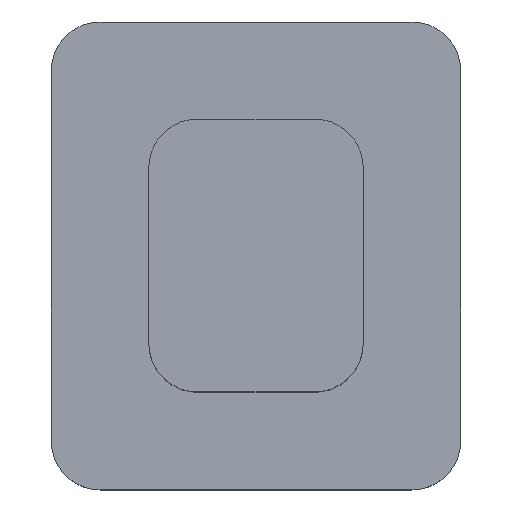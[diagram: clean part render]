
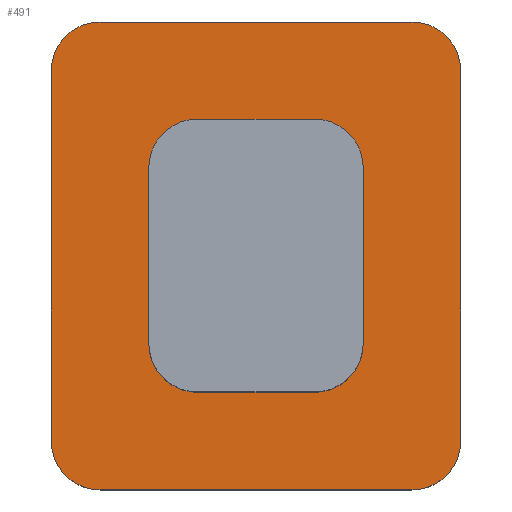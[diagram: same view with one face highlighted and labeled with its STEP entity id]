
A CAD part, top view. The second image highlights one B-rep face of the part: STEP entity #491.
In plain terms, the highlighted planar face has unit normal (0, 0, 1).
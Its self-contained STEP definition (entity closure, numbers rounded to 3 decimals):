
#1 = VERTEX_POINT ( 'NONE', #627 ) ;
#4 = VERTEX_POINT ( 'NONE', #25 ) ;
#12 = ORIENTED_EDGE ( 'NONE', *, *, #269, .T. ) ;
#24 = CARTESIAN_POINT ( 'NONE',  ( -0.6, 0.9, 0. ) ) ;
#25 = CARTESIAN_POINT ( 'NONE',  ( 2.1, -1.9, 0. ) ) ;
#27 = PLANE ( 'NONE',  #600 ) ;
#28 = CARTESIAN_POINT ( 'NONE',  ( -1.6, -2.4, 0. ) ) ;
#30 = VERTEX_POINT ( 'NONE', #120 ) ;
#36 = DIRECTION ( 'NONE',  ( -1., 0., 0. ) ) ;
#42 = DIRECTION ( 'NONE',  ( -1., 0., 0. ) ) ;
#43 = VERTEX_POINT ( 'NONE', #28 ) ;
#53 = VERTEX_POINT ( 'NONE', #582 ) ;
#56 = DIRECTION ( 'NONE',  ( 0., 0., 1. ) ) ;
#59 = EDGE_CURVE ( 'NONE', #1, #4, #124, .T. ) ;
#62 = CARTESIAN_POINT ( 'NONE',  ( 0.6, -0.9, 0. ) ) ;
#67 = CIRCLE ( 'NONE', #496, 0.5 ) ;
#72 = FACE_OUTER_BOUND ( 'NONE', #506, .T. ) ;
#78 = CIRCLE ( 'NONE', #417, 0.5 ) ;
#94 = DIRECTION ( 'NONE',  ( 0., 0., -1. ) ) ;
#95 = ORIENTED_EDGE ( 'NONE', *, *, #234, .F. ) ;
#97 = CARTESIAN_POINT ( 'NONE',  ( -0.6, 1.4, 0. ) ) ;
#102 = DIRECTION ( 'NONE',  ( 0., 0., 1. ) ) ;
#107 = EDGE_CURVE ( 'NONE', #469, #413, #268, .T. ) ;
#118 = DIRECTION ( 'NONE',  ( -1., 0., 0. ) ) ;
#120 = CARTESIAN_POINT ( 'NONE',  ( 1.1, 0.9, 0. ) ) ;
#124 = LINE ( 'NONE', #227, #238 ) ;
#125 = VERTEX_POINT ( 'NONE', #273 ) ;
#126 = DIRECTION ( 'NONE',  ( 0., 1., 0. ) ) ;
#141 = VECTOR ( 'NONE', #287, 1000. ) ;
#145 = ORIENTED_EDGE ( 'NONE', *, *, #423, .T. ) ;
#151 = ORIENTED_EDGE ( 'NONE', *, *, #186, .T. ) ;
#157 = CARTESIAN_POINT ( 'NONE',  ( 2.1, -2.4, 0. ) ) ;
#161 = CARTESIAN_POINT ( 'NONE',  ( 0., 0., 0. ) ) ;
#162 = VECTOR ( 'NONE', #261, 1000. ) ;
#168 = DIRECTION ( 'NONE',  ( -1., 0., 0. ) ) ;
#171 = EDGE_LOOP ( 'NONE', ( #95, #210, #244, #151, #616, #371, #534, #477 ) ) ;
#173 = DIRECTION ( 'NONE',  ( -1., 0., 0. ) ) ;
#175 = ORIENTED_EDGE ( 'NONE', *, *, #59, .F. ) ;
#180 = DIRECTION ( 'NONE',  ( 0., 1., 0. ) ) ;
#183 = CIRCLE ( 'NONE', #557, 0.5 ) ;
#186 = EDGE_CURVE ( 'NONE', #125, #30, #544, .T. ) ;
#192 = CIRCLE ( 'NONE', #357, 0.5 ) ;
#200 = ORIENTED_EDGE ( 'NONE', *, *, #511, .T. ) ;
#203 = AXIS2_PLACEMENT_3D ( 'NONE', #556, #102, #204 ) ;
#204 = DIRECTION ( 'NONE',  ( -1., 0., 0. ) ) ;
#210 = ORIENTED_EDGE ( 'NONE', *, *, #550, .T. ) ;
#212 = VERTEX_POINT ( 'NONE', #435 ) ;
#217 = DIRECTION ( 'NONE',  ( 1., 0., 0. ) ) ;
#221 = VERTEX_POINT ( 'NONE', #655 ) ;
#222 = DIRECTION ( 'NONE',  ( 0., 0., -1. ) ) ;
#227 = CARTESIAN_POINT ( 'NONE',  ( 2.1, 2.4, 0. ) ) ;
#234 = EDGE_CURVE ( 'NONE', #53, #284, #396, .T. ) ;
#235 = CARTESIAN_POINT ( 'NONE',  ( 1.6, -2.4, 0. ) ) ;
#238 = VECTOR ( 'NONE', #485, 1000. ) ;
#241 = CARTESIAN_POINT ( 'NONE',  ( 1.1, 1.4, 0. ) ) ;
#244 = ORIENTED_EDGE ( 'NONE', *, *, #365, .F. ) ;
#250 = VECTOR ( 'NONE', #217, 1000. ) ;
#253 = EDGE_CURVE ( 'NONE', #656, #284, #183, .T. ) ;
#254 = LINE ( 'NONE', #412, #162 ) ;
#261 = DIRECTION ( 'NONE',  ( 1., 0., 0. ) ) ;
#263 = DIRECTION ( 'NONE',  ( -1., 0., 0. ) ) ;
#265 = VERTEX_POINT ( 'NONE', #502 ) ;
#268 = LINE ( 'NONE', #572, #250 ) ;
#269 = EDGE_CURVE ( 'NONE', #1, #413, #192, .T. ) ;
#273 = CARTESIAN_POINT ( 'NONE',  ( 0.6, 1.4, 0. ) ) ;
#274 = VERTEX_POINT ( 'NONE', #235 ) ;
#284 = VERTEX_POINT ( 'NONE', #314 ) ;
#287 = DIRECTION ( 'NONE',  ( 0., -1., 0. ) ) ;
#291 = CARTESIAN_POINT ( 'NONE',  ( 0.6, 0.9, 0. ) ) ;
#300 = DIRECTION ( 'NONE',  ( -1., 0., 0. ) ) ;
#301 = VERTEX_POINT ( 'NONE', #362 ) ;
#306 = AXIS2_PLACEMENT_3D ( 'NONE', #24, #222, #424 ) ;
#311 = EDGE_CURVE ( 'NONE', #469, #301, #483, .T. ) ;
#314 = CARTESIAN_POINT ( 'NONE',  ( -1.1, -0.9, 0. ) ) ;
#316 = VECTOR ( 'NONE', #263, 1000. ) ;
#318 = VERTEX_POINT ( 'NONE', #97 ) ;
#319 = FACE_BOUND ( 'NONE', #171, .T. ) ;
#329 = DIRECTION ( 'NONE',  ( 0., 0., -1. ) ) ;
#331 = ORIENTED_EDGE ( 'NONE', *, *, #311, .T. ) ;
#335 = DIRECTION ( 'NONE',  ( 0., 0., 1. ) ) ;
#337 = EDGE_CURVE ( 'NONE', #656, #265, #254, .T. ) ;
#343 = CARTESIAN_POINT ( 'NONE',  ( -1.1, 1.4, 0. ) ) ;
#347 = AXIS2_PLACEMENT_3D ( 'NONE', #451, #56, #610 ) ;
#357 = AXIS2_PLACEMENT_3D ( 'NONE', #445, #335, #36 ) ;
#362 = CARTESIAN_POINT ( 'NONE',  ( -2.1, 1.9, 0. ) ) ;
#365 = EDGE_CURVE ( 'NONE', #125, #318, #512, .T. ) ;
#366 = DIRECTION ( 'NONE',  ( -1., 0., 0. ) ) ;
#371 = ORIENTED_EDGE ( 'NONE', *, *, #450, .T. ) ;
#375 = DIRECTION ( 'NONE',  ( 0., 0., -1. ) ) ;
#387 = ORIENTED_EDGE ( 'NONE', *, *, #453, .F. ) ;
#396 = LINE ( 'NONE', #343, #141 ) ;
#412 = CARTESIAN_POINT ( 'NONE',  ( -1.1, -1.4, 0. ) ) ;
#413 = VERTEX_POINT ( 'NONE', #518 ) ;
#417 = AXIS2_PLACEMENT_3D ( 'NONE', #62, #329, #168 ) ;
#419 = EDGE_CURVE ( 'NONE', #274, #43, #606, .T. ) ;
#423 = EDGE_CURVE ( 'NONE', #274, #4, #428, .T. ) ;
#424 = DIRECTION ( 'NONE',  ( -1., 0., 0. ) ) ;
#426 = ORIENTED_EDGE ( 'NONE', *, *, #419, .F. ) ;
#428 = CIRCLE ( 'NONE', #203, 0.5 ) ;
#435 = CARTESIAN_POINT ( 'NONE',  ( 1.1, -0.9, 0. ) ) ;
#445 = CARTESIAN_POINT ( 'NONE',  ( 1.6, 1.9, 0. ) ) ;
#447 = VECTOR ( 'NONE', #126, 1000. ) ;
#450 = EDGE_CURVE ( 'NONE', #212, #265, #78, .T. ) ;
#451 = CARTESIAN_POINT ( 'NONE',  ( -1.6, 1.9, 0. ) ) ;
#453 = EDGE_CURVE ( 'NONE', #221, #301, #571, .T. ) ;
#459 = AXIS2_PLACEMENT_3D ( 'NONE', #291, #499, #42 ) ;
#468 = CARTESIAN_POINT ( 'NONE',  ( -1.6, -1.9, 0. ) ) ;
#469 = VERTEX_POINT ( 'NONE', #581 ) ;
#477 = ORIENTED_EDGE ( 'NONE', *, *, #253, .T. ) ;
#483 = CIRCLE ( 'NONE', #347, 0.5 ) ;
#485 = DIRECTION ( 'NONE',  ( 0., -1., 0. ) ) ;
#490 = CARTESIAN_POINT ( 'NONE',  ( -0.6, -1.4, 0. ) ) ;
#491 = ADVANCED_FACE ( 'NONE', ( #319, #72 ), #27, .F. ) ;
#496 = AXIS2_PLACEMENT_3D ( 'NONE', #468, #573, #173 ) ;
#499 = DIRECTION ( 'NONE',  ( 0., 0., -1. ) ) ;
#502 = CARTESIAN_POINT ( 'NONE',  ( 0.6, -1.4, 0. ) ) ;
#506 = EDGE_LOOP ( 'NONE', ( #387, #200, #426, #145, #175, #12, #652, #331 ) ) ;
#507 = VECTOR ( 'NONE', #366, 1000. ) ;
#511 = EDGE_CURVE ( 'NONE', #221, #43, #67, .T. ) ;
#512 = LINE ( 'NONE', #515, #507 ) ;
#515 = CARTESIAN_POINT ( 'NONE',  ( -1.1, 1.4, 0. ) ) ;
#518 = CARTESIAN_POINT ( 'NONE',  ( 1.6, 2.4, 0. ) ) ;
#534 = ORIENTED_EDGE ( 'NONE', *, *, #337, .F. ) ;
#536 = CIRCLE ( 'NONE', #306, 0.5 ) ;
#544 = CIRCLE ( 'NONE', #459, 0.5 ) ;
#549 = CARTESIAN_POINT ( 'NONE',  ( -0.6, -0.9, 0. ) ) ;
#550 = EDGE_CURVE ( 'NONE', #53, #318, #536, .T. ) ;
#556 = CARTESIAN_POINT ( 'NONE',  ( 1.6, -1.9, 0. ) ) ;
#557 = AXIS2_PLACEMENT_3D ( 'NONE', #549, #94, #300 ) ;
#571 = LINE ( 'NONE', #584, #447 ) ;
#572 = CARTESIAN_POINT ( 'NONE',  ( 2.1, 2.4, 0. ) ) ;
#573 = DIRECTION ( 'NONE',  ( 0., 0., 1. ) ) ;
#579 = VECTOR ( 'NONE', #180, 1000. ) ;
#581 = CARTESIAN_POINT ( 'NONE',  ( -1.6, 2.4, 0. ) ) ;
#582 = CARTESIAN_POINT ( 'NONE',  ( -1.1, 0.9, 0. ) ) ;
#584 = CARTESIAN_POINT ( 'NONE',  ( -2.1, 2.4, 0. ) ) ;
#594 = LINE ( 'NONE', #241, #579 ) ;
#600 = AXIS2_PLACEMENT_3D ( 'NONE', #161, #375, #118 ) ;
#606 = LINE ( 'NONE', #157, #316 ) ;
#610 = DIRECTION ( 'NONE',  ( -1., 0., 0. ) ) ;
#616 = ORIENTED_EDGE ( 'NONE', *, *, #619, .F. ) ;
#619 = EDGE_CURVE ( 'NONE', #212, #30, #594, .T. ) ;
#627 = CARTESIAN_POINT ( 'NONE',  ( 2.1, 1.9, 0. ) ) ;
#652 = ORIENTED_EDGE ( 'NONE', *, *, #107, .F. ) ;
#655 = CARTESIAN_POINT ( 'NONE',  ( -2.1, -1.9, 0. ) ) ;
#656 = VERTEX_POINT ( 'NONE', #490 ) ;
